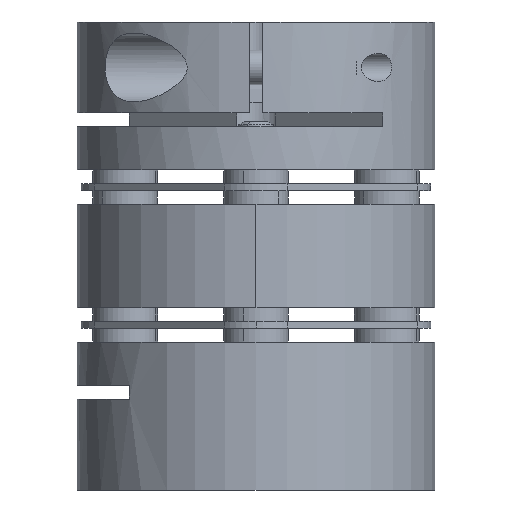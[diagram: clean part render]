
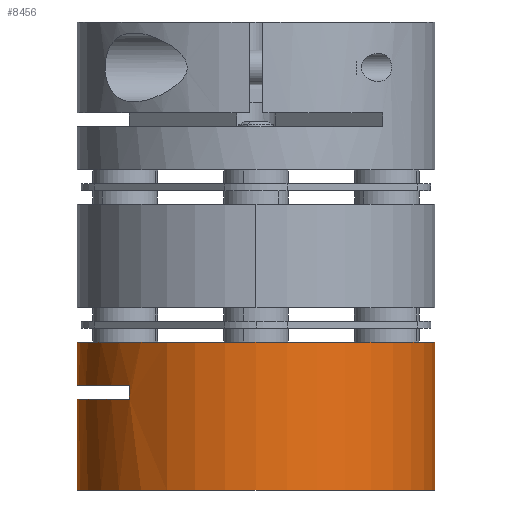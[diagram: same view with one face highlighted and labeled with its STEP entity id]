
A CAD part, left-side view. The second image highlights one B-rep face of the part: STEP entity #8456.
In plain terms, the highlighted cylindrical face has radius 13 mm (diameter 26 mm), a partial arc.
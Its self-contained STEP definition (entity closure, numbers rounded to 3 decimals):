
#389 = DIRECTION ( 'NONE',  ( 0., 0., 1. ) ) ;
#449 = VERTEX_POINT ( 'NONE', #10992 ) ;
#536 = CARTESIAN_POINT ( 'NONE',  ( 30.348, 43.844, 84.749 ) ) ;
#722 = CARTESIAN_POINT ( 'NONE',  ( 30.348, 56.844, 73.999 ) ) ;
#1085 = CARTESIAN_POINT ( 'NONE',  ( 30.348, 56.844, 80.599 ) ) ;
#1087 = VECTOR ( 'NONE', #2336, 1000. ) ;
#1241 = VECTOR ( 'NONE', #389, 1000. ) ;
#1381 = DIRECTION ( 'NONE',  ( 0., 0., 1. ) ) ;
#2144 = DIRECTION ( 'NONE',  ( 0., 1., 0. ) ) ;
#2336 = DIRECTION ( 'NONE',  ( 0., 0., 1. ) ) ;
#2483 = CARTESIAN_POINT ( 'NONE',  ( 30.348, 56.844, 73.999 ) ) ;
#2522 = LINE ( 'NONE', #19978, #14614 ) ;
#2606 = VERTEX_POINT ( 'NONE', #2483 ) ;
#2971 = DIRECTION ( 'NONE',  ( 0., 0., 1. ) ) ;
#3150 = VERTEX_POINT ( 'NONE', #19424 ) ;
#3318 = CYLINDRICAL_SURFACE ( 'NONE', #3518, 13. ) ;
#3518 = AXIS2_PLACEMENT_3D ( 'NONE', #7738, #2971, #17140 ) ;
#4818 = CIRCLE ( 'NONE', #11897, 13. ) ;
#5290 = FACE_OUTER_BOUND ( 'NONE', #12114, .T. ) ;
#5309 = LINE ( 'NONE', #722, #1087 ) ;
#5517 = ORIENTED_EDGE ( 'NONE', *, *, #8070, .F. ) ;
#5578 = ORIENTED_EDGE ( 'NONE', *, *, #20244, .T. ) ;
#5637 = ORIENTED_EDGE ( 'NONE', *, *, #20073, .T. ) ;
#6036 = ORIENTED_EDGE ( 'NONE', *, *, #13884, .F. ) ;
#6268 = ORIENTED_EDGE ( 'NONE', *, *, #19874, .T. ) ;
#6309 = ORIENTED_EDGE ( 'NONE', *, *, #14302, .T. ) ;
#6347 = ORIENTED_EDGE ( 'NONE', *, *, #19600, .F. ) ;
#6578 = DIRECTION ( 'NONE',  ( 0., 0., 1. ) ) ;
#6760 = ORIENTED_EDGE ( 'NONE', *, *, #12805, .F. ) ;
#6839 = AXIS2_PLACEMENT_3D ( 'NONE', #18263, #9030, #19759 ) ;
#7309 = VERTEX_POINT ( 'NONE', #12130 ) ;
#7738 = CARTESIAN_POINT ( 'NONE',  ( 30.348, 43.844, 73.999 ) ) ;
#7913 = CARTESIAN_POINT ( 'NONE',  ( 30.348, 43.844, 73.999 ) ) ;
#8070 = EDGE_CURVE ( 'NONE', #14675, #14057, #13069, .T. ) ;
#8305 = CIRCLE ( 'NONE', #14636, 13. ) ;
#8456 = ADVANCED_FACE ( 'NONE', ( #5290 ), #3318, .T. ) ;
#9030 = DIRECTION ( 'NONE',  ( 0., 0., 1. ) ) ;
#9057 = CIRCLE ( 'NONE', #6839, 13. ) ;
#9233 = CARTESIAN_POINT ( 'NONE',  ( 21.156, 53.037, 73.999 ) ) ;
#9532 = DIRECTION ( 'NONE',  ( 0., 1., 0. ) ) ;
#10992 = CARTESIAN_POINT ( 'NONE',  ( 30.348, 30.844, 84.749 ) ) ;
#11046 = CARTESIAN_POINT ( 'NONE',  ( 30.348, 56.844, 84.749 ) ) ;
#11197 = LINE ( 'NONE', #16038, #1241 ) ;
#11644 = DIRECTION ( 'NONE',  ( 0., 0., -1. ) ) ;
#11749 = LINE ( 'NONE', #9233, #19357 ) ;
#11897 = AXIS2_PLACEMENT_3D ( 'NONE', #7913, #18738, #9532 ) ;
#12114 = EDGE_LOOP ( 'NONE', ( #6760, #6347, #6309, #6268, #6036, #5637, #5578, #5517 ) ) ;
#12130 = CARTESIAN_POINT ( 'NONE',  ( 30.348, 30.844, 73.999 ) ) ;
#12750 = CARTESIAN_POINT ( 'NONE',  ( 21.156, 53.037, 81.599 ) ) ;
#12805 = EDGE_CURVE ( 'NONE', #2606, #14675, #5309, .T. ) ;
#13069 = CIRCLE ( 'NONE', #15723, 13. ) ;
#13884 = EDGE_CURVE ( 'NONE', #3150, #15297, #2522, .T. ) ;
#14057 = VERTEX_POINT ( 'NONE', #14269 ) ;
#14269 = CARTESIAN_POINT ( 'NONE',  ( 21.156, 53.037, 80.599 ) ) ;
#14302 = EDGE_CURVE ( 'NONE', #7309, #449, #11197, .T. ) ;
#14614 = VECTOR ( 'NONE', #1381, 1000. ) ;
#14636 = AXIS2_PLACEMENT_3D ( 'NONE', #536, #11644, #2144 ) ;
#14675 = VERTEX_POINT ( 'NONE', #1085 ) ;
#15297 = VERTEX_POINT ( 'NONE', #11046 ) ;
#15723 = AXIS2_PLACEMENT_3D ( 'NONE', #15990, #6578, #17504 ) ;
#15990 = CARTESIAN_POINT ( 'NONE',  ( 30.348, 43.844, 80.599 ) ) ;
#16038 = CARTESIAN_POINT ( 'NONE',  ( 30.348, 30.844, 73.999 ) ) ;
#16089 = VERTEX_POINT ( 'NONE', #12750 ) ;
#16875 = DIRECTION ( 'NONE',  ( 0., 0., -1. ) ) ;
#17140 = DIRECTION ( 'NONE',  ( 0., -1., 0. ) ) ;
#17504 = DIRECTION ( 'NONE',  ( 0., -1., 0. ) ) ;
#18263 = CARTESIAN_POINT ( 'NONE',  ( 30.348, 43.844, 81.599 ) ) ;
#18738 = DIRECTION ( 'NONE',  ( 0., 0., -1. ) ) ;
#19357 = VECTOR ( 'NONE', #16875, 1000. ) ;
#19424 = CARTESIAN_POINT ( 'NONE',  ( 30.348, 56.844, 81.599 ) ) ;
#19600 = EDGE_CURVE ( 'NONE', #7309, #2606, #4818, .T. ) ;
#19759 = DIRECTION ( 'NONE',  ( 0., -1., 0. ) ) ;
#19874 = EDGE_CURVE ( 'NONE', #449, #15297, #8305, .T. ) ;
#19978 = CARTESIAN_POINT ( 'NONE',  ( 30.348, 56.844, 73.999 ) ) ;
#20073 = EDGE_CURVE ( 'NONE', #3150, #16089, #9057, .T. ) ;
#20244 = EDGE_CURVE ( 'NONE', #16089, #14057, #11749, .T. ) ;
